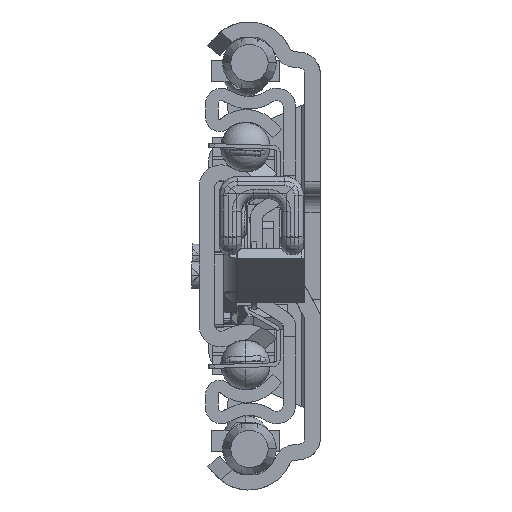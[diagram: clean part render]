
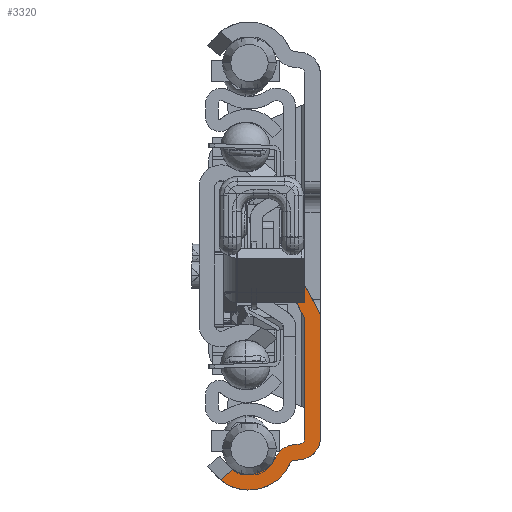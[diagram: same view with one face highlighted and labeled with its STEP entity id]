
A CAD part, left-side view. The second image highlights one B-rep face of the part: STEP entity #3320.
In plain terms, the highlighted planar face has unit normal (-1, 0, 0).
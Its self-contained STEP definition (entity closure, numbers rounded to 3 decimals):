
#128=DIRECTION('',(0.,0.,-1.));
#129=VECTOR('',#128,19.293);
#130=CARTESIAN_POINT('',(0.,2.5,-10.));
#131=LINE('',#130,#129);
#948=DIRECTION('',(0.,-0.769,0.639));
#949=VECTOR('',#948,2.575);
#950=CARTESIAN_POINT('',(0.,16.079,
-36.021));
#951=LINE('',#950,#949);
#952=CARTESIAN_POINT('',(0.,11.5,-30.4));
#953=DIRECTION('',(-1.,0.,0.));
#954=DIRECTION('',(0.,0.547,-0.837));
#955=AXIS2_PLACEMENT_3D('',#952,#953,#954);
#957=CARTESIAN_POINT('',(0.,4.008,-33.854));
#958=DIRECTION('',(1.,0.,0.));
#959=DIRECTION('',(0.,0.908,0.419));
#960=AXIS2_PLACEMENT_3D('',#957,#958,#959);
#962=CARTESIAN_POINT('',(0.,3.5,-29.293));
#963=DIRECTION('',(-1.,0.,0.));
#964=DIRECTION('',(0.,-0.087,-0.996));
#965=AXIS2_PLACEMENT_3D('',#962,#963,#964);
#967=DIRECTION('',(0.,0.477,0.879));
#968=VECTOR('',#967,6.873);
#969=CARTESIAN_POINT('',(0.,2.5,-10.));
#970=LINE('',#969,#968);
#971=CARTESIAN_POINT('',(0.,0.5,-1.099));
#972=DIRECTION('',(1.,0.,0.));
#973=DIRECTION('',(0.,0.879,-0.477));
#974=AXIS2_PLACEMENT_3D('',#971,#972,#973);
#976=DIRECTION('',(0.,-0.477,-0.879));
#977=VECTOR('',#976,6.495);
#978=CARTESIAN_POINT('',(0.,3.397,-3.04));
#979=LINE('',#978,#977);
#980=CARTESIAN_POINT('',(0.,2.5,-9.942));
#981=DIRECTION('',(1.,0.,0.));
#982=DIRECTION('',(0.,-0.879,0.477));
#983=AXIS2_PLACEMENT_3D('',#980,#981,#982);
#985=DIRECTION('',(0.,0.,-1.));
#986=VECTOR('',#985,19.357);
#987=CARTESIAN_POINT('',(0.,0.,-9.942));
#988=LINE('',#987,#986);
#989=CARTESIAN_POINT('',(0.,0.,-29.299));
#990=CARTESIAN_POINT('',(0.,0.,-29.755));
#991=CARTESIAN_POINT('',(0.,0.175,-30.613));
#992=CARTESIAN_POINT('',(0.,0.866,-31.718));
#993=CARTESIAN_POINT('',(0.,1.917,-32.5));
#994=CARTESIAN_POINT('',(0.,2.741,-32.74));
#995=CARTESIAN_POINT('',(0.,3.195,-32.78));
#997=CARTESIAN_POINT('',(0.,4.097,-32.858));
#998=CARTESIAN_POINT('',(0.,4.217,-32.869));
#999=CARTESIAN_POINT('',(0.,4.442,-32.931));
#1000=CARTESIAN_POINT('',(0.,4.734,-33.138));
#1001=CARTESIAN_POINT('',(0.,4.866,-33.326));
#1002=CARTESIAN_POINT('',(0.,4.916,-33.436));
#1004=CARTESIAN_POINT('',(0.,11.5,-30.4));
#1005=DIRECTION('',(1.,0.,0.));
#1006=DIRECTION('',(0.,-0.908,-0.419));
#1007=AXIS2_PLACEMENT_3D('',#1004,#1005,#1006);
#1017=DIRECTION('',(0.,0.996,-0.087));
#1018=VECTOR('',#1017,0.904);
#1019=CARTESIAN_POINT('',(0.,3.413,-30.289));
#1020=LINE('',#1019,#1018);
#1104=DIRECTION('',(0.,1.,0.));
#1105=VECTOR('',#1104,2.78);
#1106=CARTESIAN_POINT('',(0.,3.397,-3.04));
#1107=LINE('',#1106,#1105);
#1234=DIRECTION('',(0.,-0.996,0.087));
#1235=VECTOR('',#1234,0.905);
#1236=CARTESIAN_POINT('',(0.,4.097,-32.858));
#1237=LINE('',#1236,#1235);
#1828=CARTESIAN_POINT('',(0.,16.079,
-36.021));
#1829=CARTESIAN_POINT('',(0.,14.098,
-34.377));
#1830=VERTEX_POINT('',#1828);
#1831=VERTEX_POINT('',#1829);
#1832=CARTESIAN_POINT('',(0.,7.186,-32.389));
#1833=VERTEX_POINT('',#1832);
#1834=CARTESIAN_POINT('',(0.,4.313,-30.368));
#1835=VERTEX_POINT('',#1834);
#1836=CARTESIAN_POINT('',(0.,3.413,-30.289));
#1837=VERTEX_POINT('',#1836);
#1838=CARTESIAN_POINT('',(0.,2.5,-29.293));
#1839=VERTEX_POINT('',#1838);
#1840=CARTESIAN_POINT('',(0.,2.5,-10.));
#1841=VERTEX_POINT('',#1840);
#1842=CARTESIAN_POINT('',(0.,5.775,-3.958));
#1843=VERTEX_POINT('',#1842);
#1844=CARTESIAN_POINT('',(0.,6.177,-3.04));
#1845=VERTEX_POINT('',#1844);
#1846=CARTESIAN_POINT('',(0.,3.397,-3.04));
#1847=VERTEX_POINT('',#1846);
#1848=CARTESIAN_POINT('',(0.,0.302,-8.751));
#1849=VERTEX_POINT('',#1848);
#1850=CARTESIAN_POINT('',(0.,0.,-9.942));
#1851=VERTEX_POINT('',#1850);
#1852=CARTESIAN_POINT('',(0.,0.,-29.299));
#1853=VERTEX_POINT('',#1852);
#1854=VERTEX_POINT('',#995);
#1855=CARTESIAN_POINT('',(0.,4.097,-32.858));
#1856=VERTEX_POINT('',#1855);
#1857=VERTEX_POINT('',#1002);
#3286=CARTESIAN_POINT('',(0.,0.,0.));
#3287=DIRECTION('',(1.,0.,0.));
#3288=DIRECTION('',(0.,-1.,0.));
#3289=AXIS2_PLACEMENT_3D('',#3286,#3287,#3288);
#3290=PLANE('',#3289);
#3291=ORIENTED_EDGE('',*,*,#3256,.T.);
#3292=ORIENTED_EDGE('',*,*,#3237,.T.);
#3294=ORIENTED_EDGE('',*,*,#3293,.T.);
#3296=ORIENTED_EDGE('',*,*,#3295,.F.);
#3298=ORIENTED_EDGE('',*,*,#3297,.T.);
#3299=ORIENTED_EDGE('',*,*,#2461,.F.);
#3301=ORIENTED_EDGE('',*,*,#3300,.T.);
#3303=ORIENTED_EDGE('',*,*,#3302,.T.);
#3305=ORIENTED_EDGE('',*,*,#3304,.F.);
#3307=ORIENTED_EDGE('',*,*,#3306,.T.);
#3309=ORIENTED_EDGE('',*,*,#3308,.T.);
#3310=ORIENTED_EDGE('',*,*,#2911,.T.);
#3312=ORIENTED_EDGE('',*,*,#3311,.T.);
#3314=ORIENTED_EDGE('',*,*,#3313,.F.);
#3316=ORIENTED_EDGE('',*,*,#3315,.T.);
#3317=ORIENTED_EDGE('',*,*,#3267,.T.);
#3318=EDGE_LOOP('',(#3291,#3292,#3294,#3296,#3298,#3299,#3301,#3303,#3305,#3307,
#3309,#3310,#3312,#3314,#3316,#3317));
#3319=FACE_OUTER_BOUND('',#3318,.F.);
#956=CIRCLE('',#955,4.75);
#961=CIRCLE('',#960,3.5);
#966=CIRCLE('',#965,1.);
#975=CIRCLE('',#974,6.);
#984=CIRCLE('',#983,2.5);
#996=B_SPLINE_CURVE_WITH_KNOTS('',3,(#989,#990,#991,#992,#993,#994,#995),
.UNSPECIFIED.,.F.,.F.,(4,1,1,1,4),(0.,0.25,0.5,0.75,1.),
.UNSPECIFIED.);
#1003=B_SPLINE_CURVE_WITH_KNOTS('',3,(#997,#998,#999,#1000,#1001,#1002),
.UNSPECIFIED.,.F.,.F.,(4,1,1,4),(0.,0.333,0.667,1.),
.UNSPECIFIED.);
#1008=CIRCLE('',#1007,7.25);
#2461=EDGE_CURVE('',#1841,#1839,#131,.T.);
#2911=EDGE_CURVE('',#1851,#1853,#988,.T.);
#3237=EDGE_CURVE('',#1831,#1833,#956,.T.);
#3256=EDGE_CURVE('',#1830,#1831,#951,.T.);
#3267=EDGE_CURVE('',#1857,#1830,#1008,.T.);
#3293=EDGE_CURVE('',#1833,#1835,#961,.T.);
#3295=EDGE_CURVE('',#1837,#1835,#1020,.T.);
#3297=EDGE_CURVE('',#1837,#1839,#966,.T.);
#3300=EDGE_CURVE('',#1841,#1843,#970,.T.);
#3302=EDGE_CURVE('',#1843,#1845,#975,.T.);
#3304=EDGE_CURVE('',#1847,#1845,#1107,.T.);
#3306=EDGE_CURVE('',#1847,#1849,#979,.T.);
#3308=EDGE_CURVE('',#1849,#1851,#984,.T.);
#3311=EDGE_CURVE('',#1853,#1854,#996,.T.);
#3313=EDGE_CURVE('',#1856,#1854,#1237,.T.);
#3315=EDGE_CURVE('',#1856,#1857,#1003,.T.);
#3320=ADVANCED_FACE('',(#3319),#3290,.F.);
